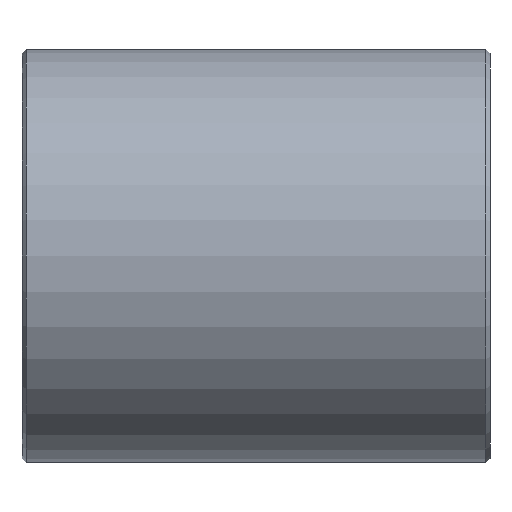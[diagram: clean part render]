
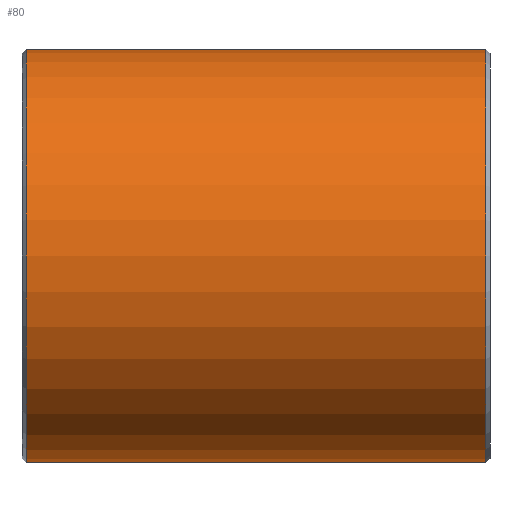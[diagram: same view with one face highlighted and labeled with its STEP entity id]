
A CAD part, left-side view. The second image highlights one B-rep face of the part: STEP entity #80.
In plain terms, the highlighted cylindrical face has radius 15 mm (diameter 30 mm), a full revolution.
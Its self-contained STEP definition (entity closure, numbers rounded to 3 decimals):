
#80=ADVANCED_FACE('',(#161,#163),#165,.T.);
#161=FACE_OUTER_BOUND('',#162,.T.);
#162=EDGE_LOOP('',(#222));
#163=FACE_OUTER_BOUND('',#164,.T.);
#164=EDGE_LOOP('',(#223));
#165=CYLINDRICAL_SURFACE('',#166,15.);
#166=AXIS2_PLACEMENT_3D('',#167,#168,#169);
#167=CARTESIAN_POINT('',(0.,0.,0.));
#168=DIRECTION('',(0.,1.,0.));
#169=DIRECTION('',(-1.,0.,0.));
#222=ORIENTED_EDGE('',*,*,#242,.F.);
#223=ORIENTED_EDGE('',*,*,#243,.T.);
#242=EDGE_CURVE('',#259,#259,#260,.T.);
#243=EDGE_CURVE('',#261,#261,#262,.T.);
#259=VERTEX_POINT('',#300);
#260=CIRCLE('',#301,15.);
#261=VERTEX_POINT('',#305);
#262=CIRCLE('',#306,15.);
#300=CARTESIAN_POINT('',(-15.,33.7,0.));
#301=AXIS2_PLACEMENT_3D('',#302,#303,#304);
#302=CARTESIAN_POINT('',(0.,33.7,0.));
#303=DIRECTION('',(0.,1.,0.));
#304=DIRECTION('',(-1.,0.,0.));
#305=CARTESIAN_POINT('',(-15.,0.3,0.));
#306=AXIS2_PLACEMENT_3D('',#307,#308,#309);
#307=CARTESIAN_POINT('',(0.,0.3,0.));
#308=DIRECTION('',(0.,1.,0.));
#309=DIRECTION('',(-1.,0.,0.));
